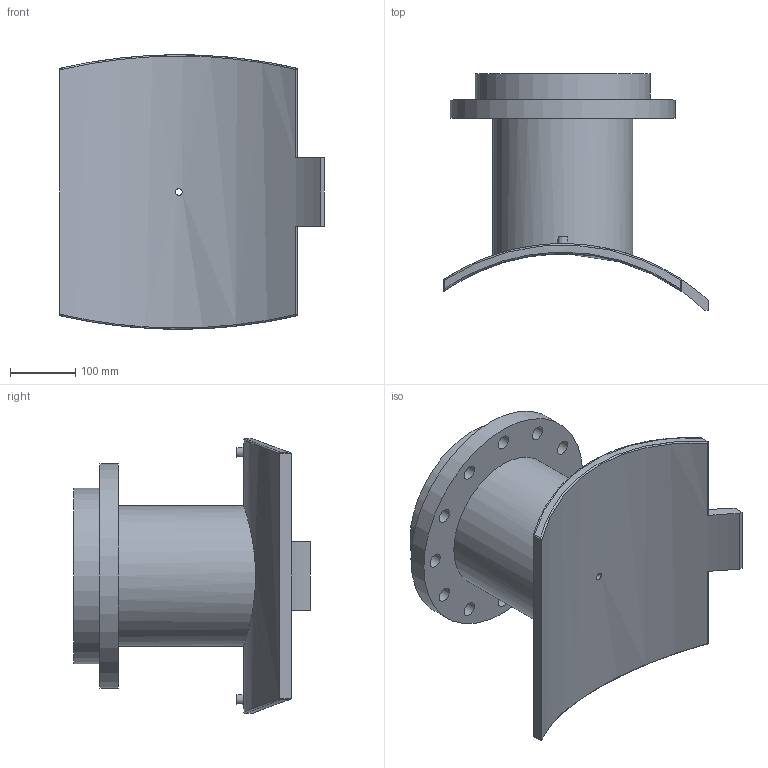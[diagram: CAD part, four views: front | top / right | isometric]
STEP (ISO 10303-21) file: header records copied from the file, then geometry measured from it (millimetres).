
FILE_DESCRIPTION(/* description */ ('PLASSON FLANGED BRANCH SADDLE 500-630X200'),/* implementation_level */ '2;1');
FILE_NAME(/* name */ 'C:\Dropbox\KIMPROJECTS-Inventor 2019\99-16-3568-Processing\ElectroFusion Fittings\495904_495903\stp\495903630200TN.stp',/* time_stamp */ '2024-04-03T21:01:26+02:00',/* author */ ('KIM'),/* organization */ (''),/* preprocessor_version */ 'ST-DEVELOPER v17.2',/* originating_system */ 'Autodesk Inventor 2019',/* authorisation */ '');
FILE_SCHEMA (('AUTOMOTIVE_DESIGN { 1 0 10303 214 3 1 1 }'));
Length unit declared in the file: millimetre
Products named in the file (1): 495903630200TN
Bounding box: 405 x 361.52 x 419.89 mm (x, y, z)
Volume: 8800165.2 mm3; surface area: 829949.7 mm2
Topology: 1 solids, 1 shells, 62 faces, 163 edges, 126 vertices
Faces by surface type: cylinder 35, plane 17, sphere 4, bspline 4, cone 2
Full cylindrical faces by diameter (mm): 4 x2, 10 x2, 10.4 x1, 16 x1, 22 x12, 163 x1, 214.4 x1, 268 x1, 344 x1
Entity records: 2595 total; most frequent: CARTESIAN_POINT 967, DIRECTION 325, ORIENTED_EDGE 298, EDGE_CURVE 149, AXIS2_PLACEMENT_3D 137, VERTEX_POINT 100, EDGE_LOOP 99, CIRCLE 78
